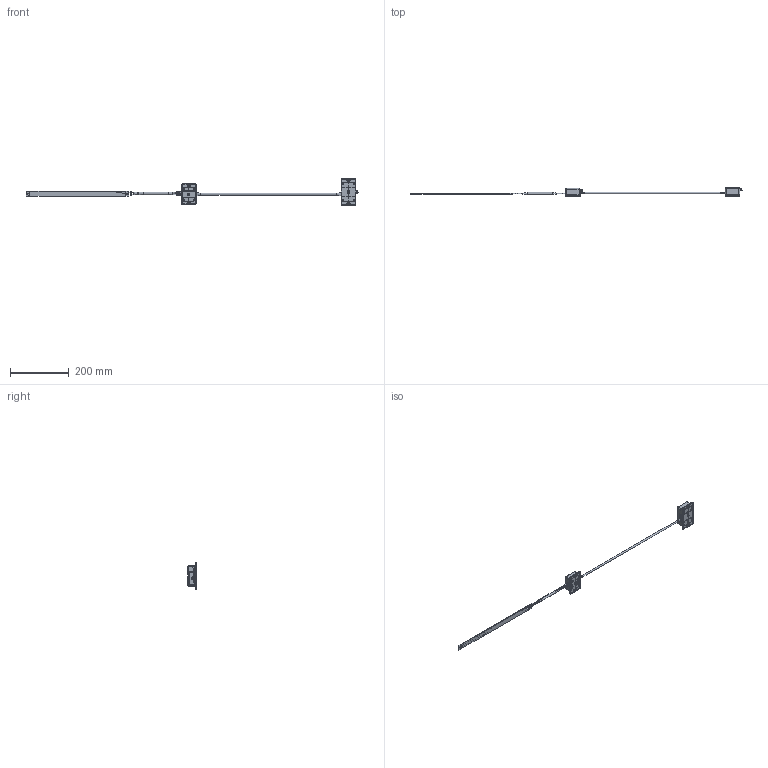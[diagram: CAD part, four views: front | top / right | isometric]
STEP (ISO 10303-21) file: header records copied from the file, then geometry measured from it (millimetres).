
FILE_DESCRIPTION(/* description */ (''),/* implementation_level */ '2;1');
FILE_NAME(/* name */ 'C:/Users/tyamada/Desktop/STEPファイル形式/270分離 v3.step',/* time_stamp */ '2021-03-01T14:31:59+09:00',/* author */ (''),/* organization */ (''),/* preprocessor_version */ 'ST-DEVELOPER v18.1',/* originating_system */ 'Autodesk Translation Framework v9.7.1.1290',/* authorisation */ '');
FILE_SCHEMA (('AUTOMOTIVE_DESIGN { 1 0 10303 214 3 1 1 }'));
Products named in the file (61): 270分離; コントロールBOX_twf5-3-7 v5; tw5-3-7; tw5-3-7(下ｶﾊﾞｰ) (1); twf5-7(ﾌﾗﾝｼﾞ); JIS B 1122 - M2 (2); 基板; S6B-PH-SM4-TB v2; S5B-PH-SM4-TB v2; DF52-20S-0.8H v1; S2B-XH-A v1; 取り付けねじ; トランス分離、一体BOX v8; トランス分離,一体BOX_t
wf5-3-5 v1; TWF5-5_フランジ (1); TWF5-X-5-01 (1); JIS B 1122 - M2 (1); アース取り付け端子; コンポーネント52; トランス分離基板 およびハーネス; 高圧ハーネス; ヒーター線; GND線; 被覆剥き線_トランス分離側; 被覆剥き線_BLADE側; コンポーネント25; 高圧線; チューブ; 収縮; F2_TM; 基板_1; ハーネスハンダ付け; F2_TO_部品 v1; S6B-PH-SM4-TB v2_1; トランス; チップ抵抗; パッド (1); コンポーネント11; コンポーネント10; アキシャル抵抗 ...
Assembly tree (80 placements, depth 7):
  270分離
    コントロールBOX_twf5-3-7 v5
      tw5-3-7
        tw5-3-7(下ｶﾊﾞｰ) (1)
        twf5-7(ﾌﾗﾝｼﾞ)
        JIS B 1122 - M2 (2)  x4
      基板
        取り付けねじ  x4
        S6B-PH-SM4-TB v2
        S5B-PH-SM4-TB v2
        DF52-20S-0.8H v1
        S2B-XH-A v1
      アース取り付け端子
        コンポーネント52
    トランス分離、一体BOX v8
      トランス分離,一体BOX_t
wf5-3-5 v1
        TWF5-5_フランジ (1)
        TWF5-X-5-01 (1)
        JIS B 1122 - M2 (1)  x4
        アース取り付け端子
          コンポーネント52
      トランス分離基板 およびハーネス
        高圧ハーネス
          ヒーター線
          GND線
          被覆剥き線_トランス分離側
          被覆剥き線_BLADE側
            コンポーネント25
          高圧線
          チューブ
            収縮  x2
        F2_TM
          基板_1
          ハーネスハンダ付け
          F2_TO_部品 v1
            S6B-PH-SM4-TB v2_1
            トランス
            チップ抵抗
              パッド (1)
              コンポーネント11
              コンポーネント10
            アキシャル抵抗
              ハンダ
              リード線  x2
        F2_TM_270
          電極
            ハンダ_1
            ヒーターハンダ
          ハーネスハンダ付け_1
          基板_2
          F2_270_ヒーター充填 v1
    低圧ハーネス v3
      ロボットケーブル
        ロボットケーブル内部配線
          コンポーネント7
          コンポーネント9
          コンポーネント8
          コンポーネント10_1
          コンポーネント5
          コンポーネント11_1  x2
Bounding box: 1133.03 x 29.9 x 90.4 mm (x, y, z)
Volume: 93640.2 mm3; surface area: 110694.1 mm2
Topology: 109 solids, 109 shells, 3206 faces, 8250 edges, 5382 vertices
Faces by surface type: plane 2053, cylinder 636, bspline 209, cone 170, torus 118, sphere 20
Full cylindrical faces by diameter (mm): 0.6 x4, 1 x35, 1.4 x16, 1.478 x16, 1.5 x3, 1.933 x32, 2 x23, 2.2 x7, 2.6 x8, 2.9 x8, 3 x3, 3.002 x4, 3.5 x10, 4 x16, 4.5 x8, 5 x12, 5.2 x8, 5.4 x8, 6 x4, 7 x6, 7.351 x6, 7.9 x1, 7.927 x10, 8 x2
Entity records: 93901 total; most frequent: CARTESIAN_POINT 23595, ORIENTED_EDGE 14474, DIRECTION 13618, EDGE_CURVE 7237, LINE 5392, VECTOR 5392, VERTEX_POINT 4722, AXIS2_PLACEMENT_3D 4113
